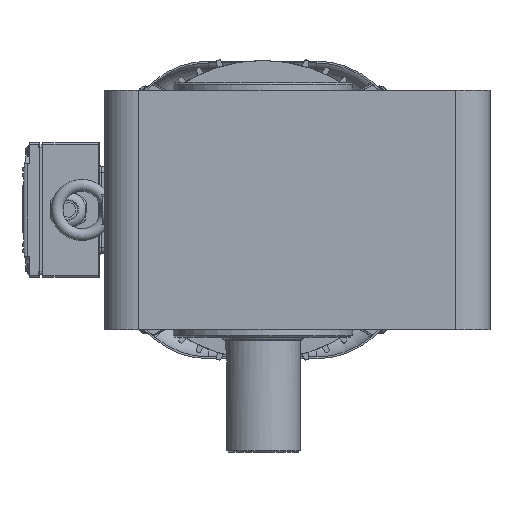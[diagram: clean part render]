
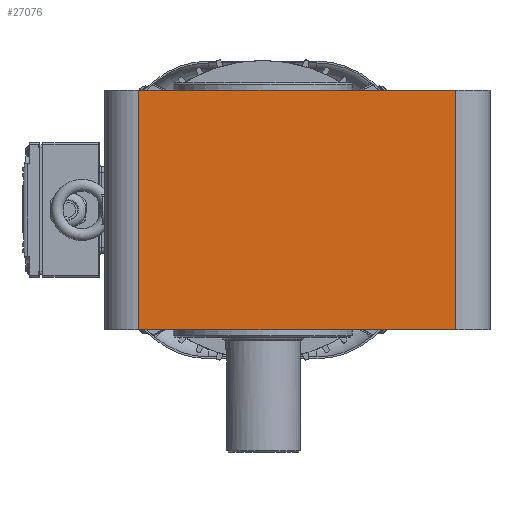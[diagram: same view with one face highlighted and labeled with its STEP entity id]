
A CAD part, left-side view. The second image highlights one B-rep face of the part: STEP entity #27076.
In plain terms, the highlighted planar face has unit normal (-1, 0, 0).
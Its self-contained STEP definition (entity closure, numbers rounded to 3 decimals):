
#818=PLANE('',#29778);
#1996=FACE_OUTER_BOUND('',#3589,.T.);
#3589=EDGE_LOOP('',(#21889,#21890,#21891,#21892));
#7192=LINE('',#45916,#9319);
#7219=LINE('',#46030,#9346);
#7220=LINE('',#46034,#9347);
#7221=LINE('',#46035,#9348);
#9319=VECTOR('',#36289,212.);
#9346=VECTOR('',#36408,160.);
#9347=VECTOR('',#36413,160.);
#9348=VECTOR('',#36414,212.);
#12087=VERTEX_POINT('',#45913);
#12088=VERTEX_POINT('',#45915);
#12129=VERTEX_POINT('',#46029);
#12130=VERTEX_POINT('',#46033);
#15496=EDGE_CURVE('',#12088,#12087,#7192,.T.);
#15551=EDGE_CURVE('',#12088,#12129,#7219,.T.);
#15553=EDGE_CURVE('',#12130,#12087,#7220,.T.);
#15554=EDGE_CURVE('',#12130,#12129,#7221,.T.);
#21889=ORIENTED_EDGE('',*,*,#15551,.F.);
#21890=ORIENTED_EDGE('',*,*,#15496,.T.);
#21891=ORIENTED_EDGE('',*,*,#15553,.F.);
#21892=ORIENTED_EDGE('',*,*,#15554,.T.);
#27076=ADVANCED_FACE('',(#1996),#818,.T.);
#29778=AXIS2_PLACEMENT_3D('',#46032,#36411,#36412);
#36289=DIRECTION('',(0.,1.,0.));
#36408=DIRECTION('',(0.,0.,-1.));
#36411=DIRECTION('center_axis',(-1.,0.,0.));
#36412=DIRECTION('ref_axis',(0.,0.,1.));
#36413=DIRECTION('',(0.,0.,1.));
#36414=DIRECTION('',(0.,-1.,0.));
#45913=CARTESIAN_POINT('',(-138.011,76.178,111.));
#45915=CARTESIAN_POINT('',(-138.011,-135.822,111.));
#45916=CARTESIAN_POINT('',(-138.011,-135.822,111.));
#46029=CARTESIAN_POINT('',(-138.011,-135.822,-49.));
#46030=CARTESIAN_POINT('',(-138.011,-135.822,111.));
#46032=CARTESIAN_POINT('Origin',(-138.011,-158.822,-49.));
#46033=CARTESIAN_POINT('',(-138.011,76.178,-49.));
#46034=CARTESIAN_POINT('',(-138.011,76.178,-49.));
#46035=CARTESIAN_POINT('',(-138.011,76.178,-49.));
